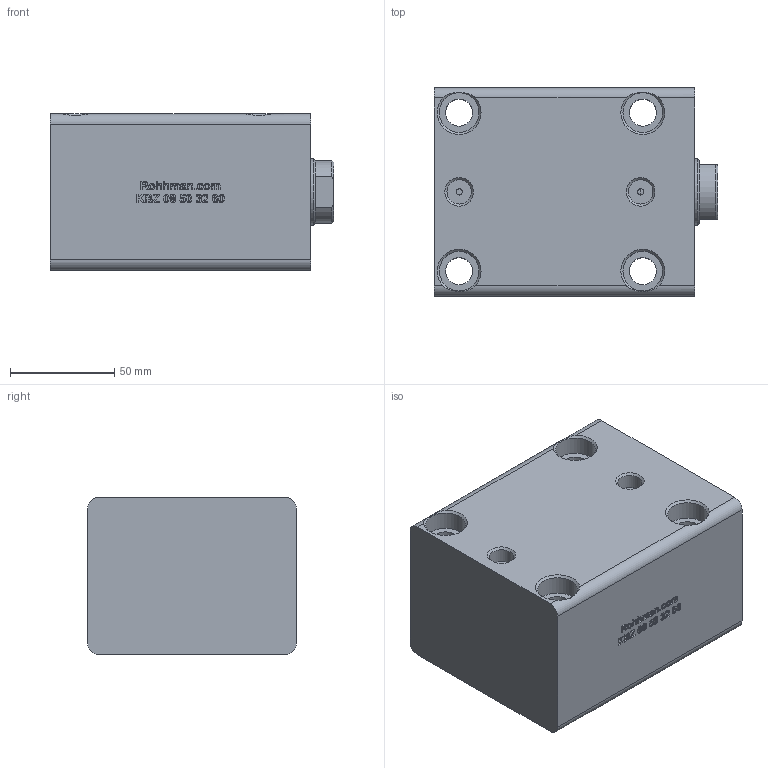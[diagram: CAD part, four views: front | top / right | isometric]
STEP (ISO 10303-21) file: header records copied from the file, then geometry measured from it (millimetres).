
FILE_DESCRIPTION(/* description */ (''),/* implementation_level */ '2;1');
FILE_NAME(/* name */ 'KBZ_08_50_32_60_WEB.step',/* time_stamp */ '2023-09-04T10:45:21+03:00',/* author */ (''),/* organization */ (''),/* preprocessor_version */ 'ST-DEVELOPER v20',/* originating_system */ 'Autodesk Translation Framework v12.9.0.99',/* authorisation */ '');
FILE_SCHEMA (('AUTOMOTIVE_DESIGN { 1 0 10303 214 3 1 1 }'));
Length unit declared in the file: millimetre
Products named in the file (6): KBZ_08_50_32_100_MONTAJ; KAPAK; KAPAK_1; GÖVDE; GÖVDE_1; Ø32 MİL
Assembly tree (5 placements, depth 3):
  KBZ_08_50_32_100_MONTAJ
    KAPAK
      KAPAK_1
    GÖVDE
      GÖVDE_1
    Ø32 MİL
Bounding box: 136 x 100 x 75 mm (x, y, z)
Volume: 803966.1 mm3; surface area: 103764.5 mm2
Topology: 3 solids, 3 shells, 585 faces, 1603 edges, 1062 vertices
Faces by surface type: bspline 363, plane 176, cylinder 28, cone 18
Full cylindrical faces by diameter (mm): 3 x4, 11.668 x2, 13 x4, 17.519 x1, 19 x4, 32 x1, 32.5 x1, 50 x1, 55 x2, 65 x2
Entity records: 22152 total; most frequent: CARTESIAN_POINT 9582, ORIENTED_EDGE 3206, EDGE_CURVE 1603, DIRECTION 1415, VERTEX_POINT 1062, LINE 777, VECTOR 777, B_SPLINE_CURVE_WITH_KNOTS 737
